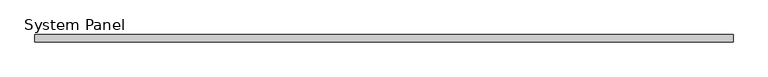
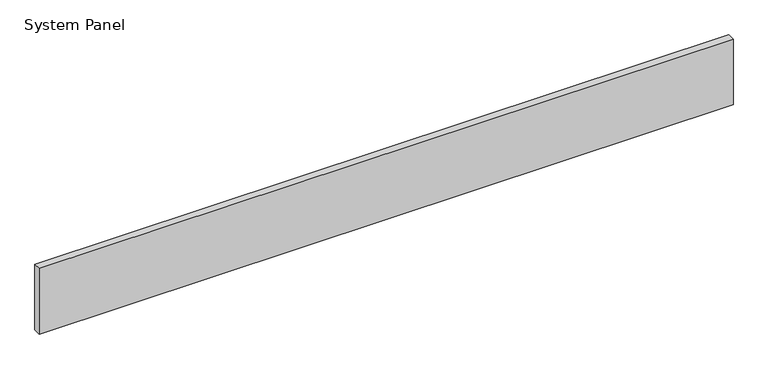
"""IFC4 building model written with IfcOpenShell, lengths in millimetres: plate geometry, System Panel : Equitilt_125mm_Plain_Surfmist."""

import ifcopenshell
import ifcopenshell.guid

model = None  # the IFC model being written
_history = None  # IfcOwnerHistory: only IFC2X3 demands one
_inside = {}  # id of a spatial element -> (the spatial element, [elements in it])
_under = {}  # id of a project, library or spatial element -> (it, [spatial elements below it])
_declared = {}  # id of a project -> (the project, [libraries it declares])
_typed = {}  # id of a type object -> (the type object, [elements of that type])
_made_of = {}  # id of a material, layer set ... -> (it, [elements and type objects made of it])


def new_model(schema):
    """Start an empty IFC model of exactly this schema.

    Asked for "IFC4X3", IfcOpenShell would pick the latest addendum, in which some entities
    have other attributes; the version numbers below select the first issue.
    IFC2X3 requires an IfcOwnerHistory on every rooted entity: one is made here for all.
    """
    global model, _history
    if schema == "IFC4X3":
        model = ifcopenshell.file(schema_version=(4, 3, 0, 0))
    else:
        model = ifcopenshell.file(schema=schema)
    _inside.clear()
    _under.clear()
    _declared.clear()
    _typed.clear()
    _made_of.clear()
    _history = None
    if model.schema == "IFC2X3":
        org = make("IfcOrganization", Name="unknown")
        user = make(
            "IfcPersonAndOrganization",
            ThePerson=make("IfcPerson", FamilyName="unknown"),
            TheOrganization=org,
        )
        app = make(
            "IfcApplication",
            ApplicationDeveloper=org,
            Version="unknown",
            ApplicationFullName="unknown",
            ApplicationIdentifier="unknown",
        )
        _history = make(
            "IfcOwnerHistory",
            OwningUser=user,
            OwningApplication=app,
            ChangeAction="ADDED",
            CreationDate=0,
        )
    return model


def make(cls, **values):
    """One entity of the class cls with the attributes given. An attribute that is None is left unset."""
    return model.create_entity(
        cls, **{name: value for name, value in values.items() if value is not None}
    )


def rooted(cls, **values):
    """An entity with a GlobalId (a new one), such as an element, a storey or a relation."""
    return make(cls, GlobalId=ifcopenshell.guid.new(), OwnerHistory=_history, **values)


def si_unit(unit_type, name, prefix=None):
    """IfcSIUnit, for example si_unit("LENGTHUNIT", "METRE", prefix="MILLI")."""
    return make("IfcSIUnit", UnitType=unit_type, Prefix=prefix, Name=name)


def assignment(units):
    """IfcUnitAssignment: the units of a project."""
    return None if units is None else make("IfcUnitAssignment", Units=units)


def point(xyz):
    """IfcCartesianPoint."""
    return None if xyz is None else make("IfcCartesianPoint", Coordinates=xyz)


def direction(xyz):
    """IfcDirection."""
    return None if xyz is None else make("IfcDirection", DirectionRatios=xyz)


def frame(location, z_axis=None, x_axis=None):
    """IfcAxis2Placement3D, a coordinate frame: its origin and axes. An axis left out is left unset."""
    return make(
        "IfcAxis2Placement3D",
        Location=point(location),
        Axis=direction(z_axis),
        RefDirection=direction(x_axis),
    )


def origin():
    """The frame at (0, 0, 0) with its axes left unset."""
    return frame((0.0, 0.0, 0.0))


def origin_with_axes():
    """The frame at (0, 0, 0) with the z axis (0, 0, 1) and the x axis (1, 0, 0) written out."""
    return frame((0.0, 0.0, 0.0), z_axis=(0.0, 0.0, 1.0), x_axis=(1.0, 0.0, 0.0))


def place(relative_to, where):
    """IfcLocalPlacement: puts the frame where relative to a parent placement (None: the world)."""
    return make(
        "IfcLocalPlacement", PlacementRelTo=relative_to, RelativePlacement=where
    )


def context(
    kind, dimensions, precision=None, world=None, true_north=None, identifier=None
):
    """IfcGeometricRepresentationContext, for example the 3D "Model" context."""
    return make(
        "IfcGeometricRepresentationContext",
        ContextIdentifier=identifier,
        ContextType=kind,
        CoordinateSpaceDimension=dimensions,
        Precision=precision,
        WorldCoordinateSystem=world,
        TrueNorth=true_north,
    )


def project(units=None, contexts=None):
    """IfcProject with its units and contexts."""
    return rooted(
        "IfcProject",
        Name="project",
        RepresentationContexts=contexts,
        UnitsInContext=assignment(units),
    )


def spatial(cls, under=None, at=None, **own):
    """A site, building, storey or space (cls), placed at a placement, below another one or the project."""
    s = rooted(cls, ObjectPlacement=at, **own)
    if under is not None:
        _under.setdefault(under.id(), (under, []))[1].append(s)
    return s


def polyline(points):
    """IfcPolyline through the points."""
    return make("IfcPolyline", Points=[point(p) for p in points])


def outline(outer, holes=None, kind="AREA"):
    """IfcArbitraryClosedProfileDef: a profile drawn as a closed curve; with holes, ...WithVoids."""
    if holes is None:
        return make("IfcArbitraryClosedProfileDef", ProfileType=kind, OuterCurve=outer)
    return make(
        "IfcArbitraryProfileDefWithVoids",
        ProfileType=kind,
        OuterCurve=outer,
        InnerCurves=holes,
    )


def extrude(swept, where, along, depth):
    """IfcExtrudedAreaSolid: the profile swept, set in the frame where, extruded along a direction by depth."""
    return make(
        "IfcExtrudedAreaSolid",
        SweptArea=swept,
        Position=where,
        ExtrudedDirection=direction(along),
        Depth=depth,
    )


def shape(context_of_items, identifier, shape_type, items):
    """IfcShapeRepresentation: the items that make up one representation, for example the "Body"."""
    return make(
        "IfcShapeRepresentation",
        ContextOfItems=context_of_items,
        RepresentationIdentifier=identifier,
        RepresentationType=shape_type,
        Items=items,
    )


def source(mapping_origin, context_of_items, identifier, shape_type, items):
    """IfcRepresentationMap: a shape defined once, which mapped items show again and again."""
    return make(
        "IfcRepresentationMap",
        MappingOrigin=mapping_origin,
        MappedRepresentation=shape(context_of_items, identifier, shape_type, items),
    )


def transform(
    local_origin,
    x_axis=None,
    y_axis=None,
    z_axis=None,
    scale=None,
    scale2=None,
    scale3=None,
    uniform=True,
):
    """IfcCartesianTransformationOperator3D, or its non-uniform kind. x_axis, y_axis, z_axis: its Axis1, 2, 3."""
    if uniform:
        return make(
            "IfcCartesianTransformationOperator3D",
            Axis1=direction(x_axis),
            Axis2=direction(y_axis),
            LocalOrigin=point(local_origin),
            Scale=scale,
            Axis3=direction(z_axis),
        )
    return make(
        "IfcCartesianTransformationOperator3DnonUniform",
        Axis1=direction(x_axis),
        Axis2=direction(y_axis),
        LocalOrigin=point(local_origin),
        Scale=scale,
        Axis3=direction(z_axis),
        Scale2=scale2,
        Scale3=scale3,
    )


def mapped(mapping_source, mapping_target):
    """IfcMappedItem: shows the shape of a source again, moved by a transform."""
    return make(
        "IfcMappedItem", MappingSource=mapping_source, MappingTarget=mapping_target
    )


def made_of(thing, what):
    """Note that an element or type object is made of a material, layer set ...; save() writes the relation."""
    if what is not None:
        _made_of.setdefault(what.id(), (what, []))[1].append(thing)
    return thing


def element(
    cls,
    number,
    at=None,
    inside=None,
    cuts=None,
    type_object=None,
    material=None,
    context=None,
    identifier="Body",
    shape_type=None,
    held_by="IfcProductDefinitionShape",
    body=None,
    shapes=None,
    **own,
):
    """One element of the class cls, such as IfcWall. Its Tag is "e" and its number.

    at: its placement. inside: the storey or other place that contains it. cuts: it is an
    opening in that element (IfcRelVoidsElement). A single representation is given by context,
    identifier, shape_type and body (its items); several are given by shapes. held_by: the class
    of the entity that holds the representations. save() writes the other relations.
    """
    e = rooted(cls, Tag="e%d" % number, ObjectPlacement=at, **own)
    if body is not None:
        shapes = [shape(context, identifier, shape_type, body)]
    if shapes is not None:
        e.Representation = make(held_by, Representations=shapes)
    if inside is not None:
        _inside.setdefault(inside.id(), (inside, []))[1].append(e)
    if cuts is not None:
        rooted(
            "IfcRelVoidsElement", RelatingBuildingElement=cuts, RelatedOpeningElement=e
        )
    if type_object is not None:
        _typed.setdefault(type_object.id(), (type_object, []))[1].append(e)
    return made_of(e, material)


def aggregate(whole, parts):
    """IfcRelAggregates: a whole, such as a stair, and the parts it consists of."""
    return rooted("IfcRelAggregates", RelatingObject=whole, RelatedObjects=parts)


def save(model, path):
    """Write the relations noted so far, then the file.

    IfcRelAggregates (storeys below a building ...), IfcRelContainedInSpatialStructure (elements
    in a storey), IfcRelDefinesByType, IfcRelAssociatesMaterial and IfcRelDeclares: one each for
    every whole, place, type object, material and project.
    """
    for whole, parts in _under.values():
        aggregate(whole, parts)
    for where, things in _inside.values():
        rooted(
            "IfcRelContainedInSpatialStructure",
            RelatedElements=things,
            RelatingStructure=where,
        )
    for kind, things in _typed.values():
        rooted("IfcRelDefinesByType", RelatedObjects=things, RelatingType=kind)
    for what, things in _made_of.values():
        rooted("IfcRelAssociatesMaterial", RelatedObjects=things, RelatingMaterial=what)
    for by, libraries in _declared.values():
        rooted("IfcRelDeclares", RelatingContext=by, RelatedDefinitions=libraries)
    model.write(path)


def system_panel_68acf3b8(model_context):
    return source(origin(), model_context, "Body", "SweptSolid", [
        extrude(outline(polyline([(6000.0, 0.0), (-6000.0, 0.0), (-6000.0, 125.0), (6000.0, 125.0), (6000.0, 0.0)])), origin_with_axes(), (0.0, 0.0, 1.0), 1200.0),
    ])


if __name__ == "__main__":
    model = new_model("IFC4")
    model_context = context("Model", 3, world=origin())
    ifc_project = project(units=[si_unit("LENGTHUNIT", "METRE", prefix="MILLI")], contexts=[model_context])
    site = spatial("IfcSite", under=ifc_project)
    building = spatial("IfcBuilding", under=site)
    placement = place(None, origin())
    system_panel_shape = system_panel_68acf3b8(model_context)
    element("IfcPlate", 1, ObjectType="System Panel : Equitilt_125mm_Plain_Surfmist", at=placement, inside=building, context=model_context, shape_type="MappedRepresentation", body=[
        mapped(system_panel_shape, transform((0.0, 0.0, 0.0), x_axis=(1.0, 0.0, 0.0), y_axis=(0.0, 1.0, 0.0), z_axis=(0.0, 0.0, 1.0))),
    ])
    save(model, "model.ifc")
